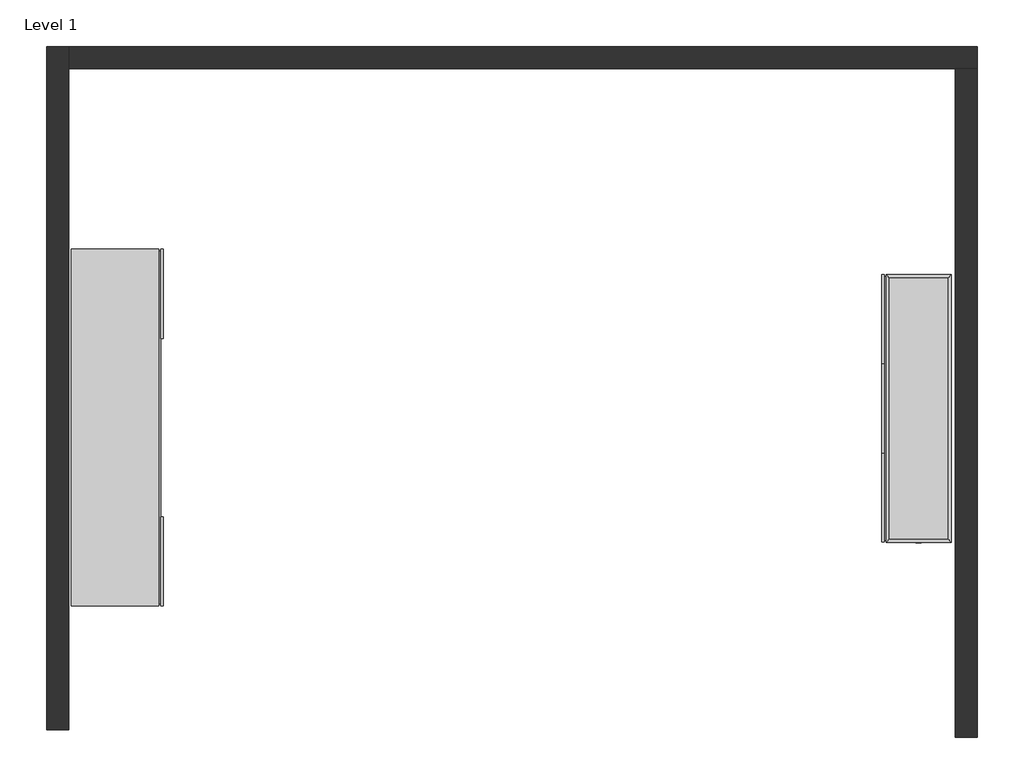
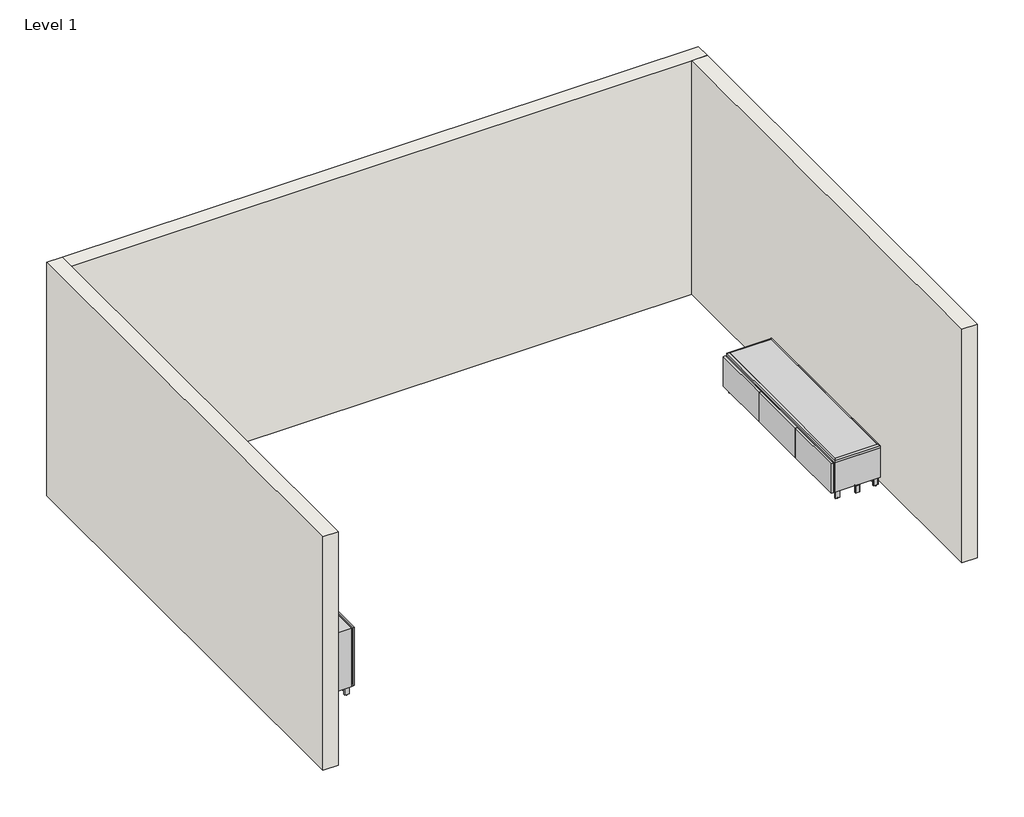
# One storey, incomplete: 3 walls, 2 furniture elements.
"""IFC4 building model written with IfcOpenShell, lengths in millimetres."""

from ifc_helpers import new_model, si_unit, origin, origin_with_axes, place, context, project, spatial, polyline, outline, extrude, faceted_brep, transform, mapped, element, save
from components import door_72w_metal_base_94e5ba46, partial_open_96w_metal_base_f76c5528

model = new_model("IFC4")

# Units and contexts
model_context = context("Model", 3, world=origin())
ifc_project = project(units=[si_unit("LENGTHUNIT", "METRE", prefix="MILLI")], contexts=[model_context])

# Site, building, storey
site = spatial("IfcSite", under=ifc_project)
building = spatial("IfcBuilding", under=site)
storey = spatial("IfcBuildingStorey", under=building, Name="Level 1", Elevation=0.0)

# Furniture
placement = place(None, origin())
door_72w_metal_base_shape = door_72w_metal_base_94e5ba46(model_context)
element("IfcFurniture", 1, ObjectType="Steelcase Coalesse - Exponents - Seating - Bench : Door - 72W - Metal Base", at=placement, inside=storey, context=model_context, shape_type="MappedRepresentation", body=[
    mapped(door_72w_metal_base_shape, transform((-35971.699418, -303475.5009432, 0.0), x_axis=(0.0, -1.0000000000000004, 0.0), y_axis=(1.0000000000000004, 0.0, 0.0), z_axis=(0.0, 0.0, 1.0))),
])
partial_open_96w_metal_base_shape = partial_open_96w_metal_base_f76c5528(model_context)
element("IfcFurniture", 2, ObjectType="Steelcase Coalesse - Exponents - Storage - Credenza - 27H (1) : Partial Open - 96W - Metal Base", at=placement, inside=storey, context=model_context, shape_type="MappedRepresentation", body=[
    mapped(partial_open_96w_metal_base_shape, transform((-40899.2821185, -305739.4461944, 0.0), x_axis=(0.0, 1.0, 0.0), y_axis=(-1.0, 0.0, 0.0), z_axis=(0.0, 0.0, 1.0))),
])

# Walls
element("IfcWall", 3, ObjectType="6in", at=placement, inside=storey, context=model_context, shape_type="Brep", body=[
    faceted_brep([(-41545.4333052, -306588.0457401, 0.0), (-41545.4333052, -302066.8457401, 0.0), (-41545.4333052, -301914.4457401, 0.0), (-41545.4333052, -301914.4457401, 2411.3089311), (-41545.4333052, -302066.8457401, 2411.3089311), (-41545.4333052, -306588.0457401, 2411.3089311), (-41697.8333052, -306588.0457401, 0.0), (-41697.8333052, -306588.0457401, 2411.3089311), (-41697.8333052, -301914.4457401, 2411.3089311), (-41697.8333052, -301914.4457401, 0.0)], [[[0, 1, 2, 3, 4, 5]], [[6, 7, 8, 9]], [[2, 1, 0, 6, 9]], [[5, 4, 3, 8, 7]], [[0, 5, 7, 6]], [[3, 2, 9, 8]]]),
])
element("IfcWall", 4, ObjectType="6in", at=placement, inside=storey, context=model_context, shape_type="Brep", body=[
    faceted_brep([(-41545.4333052, -302066.8457401, 0.0), (-35487.5333052, -302066.8457401, 0.0), (-35335.1333052, -302066.8457401, 0.0), (-35335.1333052, -302066.8457401, 2411.3089311), (-35487.5333052, -302066.8457401, 2411.3089311), (-41545.4333052, -302066.8457401, 2411.3089311), (-41545.4333052, -301914.4457401, 0.0), (-41545.4333052, -301914.4457401, 2411.3089311), (-35335.1333052, -301914.4457401, 2411.3089311), (-35335.1333052, -301914.4457401, 0.0)], [[[0, 1, 2, 3, 4, 5]], [[6, 7, 8, 9]], [[2, 1, 0, 6, 9]], [[5, 4, 3, 8, 7]], [[0, 5, 7, 6]], [[3, 2, 9, 8]]]),
])
element("IfcWall", 5, ObjectType="6in", at=placement, inside=storey, context=model_context, shape_type="SweptSolid", body=[
    extrude(outline(polyline([(-35487.5333052, -306638.8457401), (-35487.5333052, -302066.8457401), (-35335.1333052, -302066.8457401), (-35335.1333052, -306638.8457401), (-35487.5333052, -306638.8457401)])), origin_with_axes(), (0.0, 0.0, 1.0), 2411.3089311),
])

save(model, "model.ifc")
